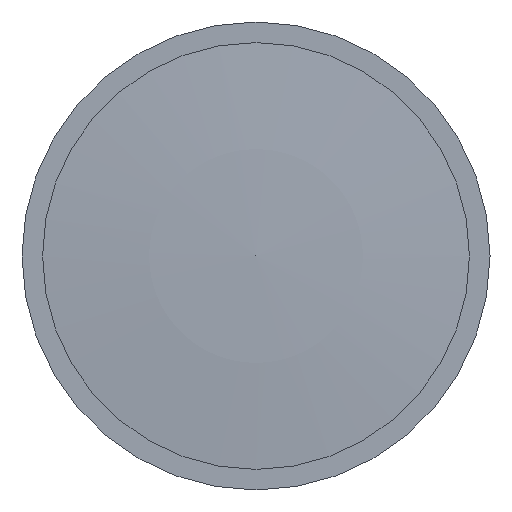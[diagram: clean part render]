
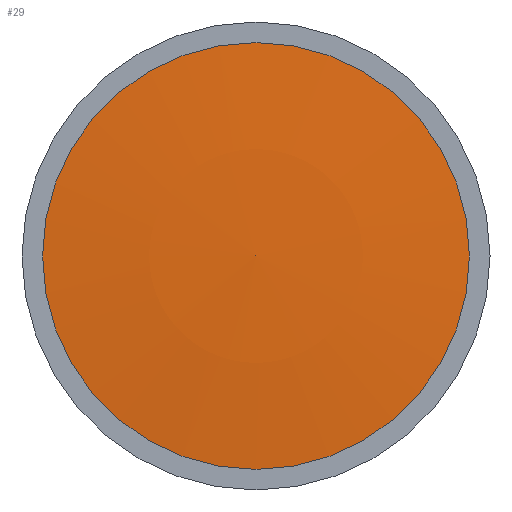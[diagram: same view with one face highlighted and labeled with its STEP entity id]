
A CAD part, top view. The second image highlights one B-rep face of the part: STEP entity #29.
In plain terms, the highlighted spherical face has radius 10417.7 mm.
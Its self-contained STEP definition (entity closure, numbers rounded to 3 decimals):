
#29 = ADVANCED_FACE( '', ( #56 ), #57, .T. );
#56 = FACE_OUTER_BOUND( '', #81, .T. );
#57 = SPHERICAL_SURFACE( '', #82, 10417.683 );
#81 = EDGE_LOOP( '', ( #100 ) );
#82 = AXIS2_PLACEMENT_3D( '', #101, #102, #103 );
#100 = ORIENTED_EDGE( '', *, *, #128, .T. );
#101 = CARTESIAN_POINT( '', ( 0., 0., -10386.667 ) );
#102 = DIRECTION( '', ( 0., 0., 1. ) );
#103 = DIRECTION( '', ( -1., 0., 0. ) );
#128 = EDGE_CURVE( '', #137, #137, #138, .T. );
#137 = VERTEX_POINT( '', #150 );
#138 = CIRCLE( '', #151, 790.039 );
#150 = CARTESIAN_POINT( '', ( 790.039, 0., 1.016 ) );
#151 = AXIS2_PLACEMENT_3D( '', #162, #163, #164 );
#162 = CARTESIAN_POINT( '', ( 0., 0., 1.016 ) );
#163 = DIRECTION( '', ( 0., 0., 1. ) );
#164 = DIRECTION( '', ( 1., 0., 0. ) );
